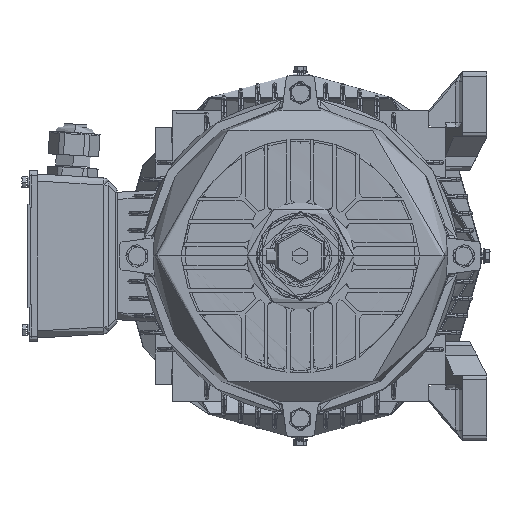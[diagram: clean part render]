
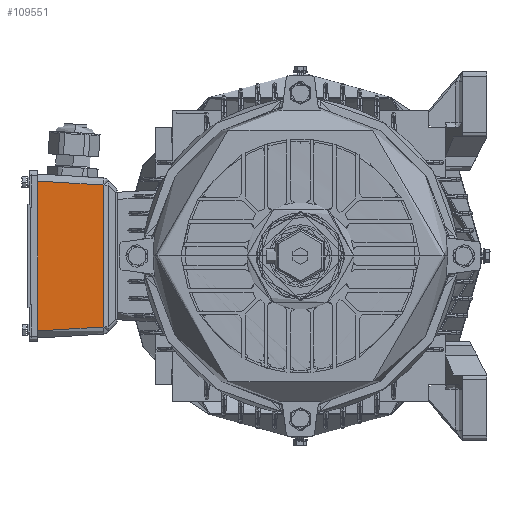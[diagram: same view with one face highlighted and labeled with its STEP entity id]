
A CAD part, left-side view. The second image highlights one B-rep face of the part: STEP entity #109551.
In plain terms, the highlighted planar face has unit normal (1, 0.02, 0).
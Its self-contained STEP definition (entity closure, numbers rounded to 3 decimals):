
#2082 = LINE ( 'NONE', #26346, #5372 ) ;
#5372 = VECTOR ( 'NONE', #100233, 1000. ) ;
#13002 = LINE ( 'NONE', #131734, #122018 ) ;
#21087 = CARTESIAN_POINT ( 'NONE',  ( -70.914, 164.139, 52.997 ) ) ;
#26346 = CARTESIAN_POINT ( 'NONE',  ( -70.914, 164.139, -60. ) ) ;
#31942 = VERTEX_POINT ( 'NONE', #61710 ) ;
#36626 = VERTEX_POINT ( 'NONE', #132763 ) ;
#39100 = ORIENTED_EDGE ( 'NONE', *, *, #79440, .T. ) ;
#39384 = EDGE_CURVE ( 'NONE', #31942, #86017, #70183, .T. ) ;
#50422 = EDGE_LOOP ( 'NONE', ( #39100, #70883, #97097, #59806 ) ) ;
#58425 = DIRECTION ( 'NONE',  ( 0.02, -0.998, -0.06 ) ) ;
#59806 = ORIENTED_EDGE ( 'NONE', *, *, #39384, .T. ) ;
#59958 = CARTESIAN_POINT ( 'NONE',  ( -70.914, 164.139, -60. ) ) ;
#61710 = CARTESIAN_POINT ( 'NONE',  ( -69.955, 116.192, 50.082 ) ) ;
#67714 = FACE_OUTER_BOUND ( 'NONE', #50422, .T. ) ;
#68134 = LINE ( 'NONE', #89933, #92888 ) ;
#68517 = DIRECTION ( 'NONE',  ( 0., 0., -1. ) ) ;
#70072 = PLANE ( 'NONE',  #99112 ) ;
#70183 = LINE ( 'NONE', #89727, #94999 ) ;
#70541 = DIRECTION ( 'NONE',  ( -0.02, 1., 0. ) ) ;
#70883 = ORIENTED_EDGE ( 'NONE', *, *, #78815, .T. ) ;
#72535 = VERTEX_POINT ( 'NONE', #21087 ) ;
#78815 = EDGE_CURVE ( 'NONE', #36626, #72535, #2082, .T. ) ;
#79440 = EDGE_CURVE ( 'NONE', #86017, #36626, #68134, .T. ) ;
#83170 = EDGE_CURVE ( 'NONE', #72535, #31942, #13002, .T. ) ;
#86017 = VERTEX_POINT ( 'NONE', #111784 ) ;
#89727 = CARTESIAN_POINT ( 'NONE',  ( -69.955, 116.151, -60. ) ) ;
#89933 = CARTESIAN_POINT ( 'NONE',  ( -69.956, 116.233, -50.123 ) ) ;
#92888 = VECTOR ( 'NONE', #100076, 1000. ) ;
#94999 = VECTOR ( 'NONE', #68517, 1000. ) ;
#97097 = ORIENTED_EDGE ( 'NONE', *, *, #83170, .T. ) ;
#99112 = AXIS2_PLACEMENT_3D ( 'NONE', #59958, #133683, #70541 ) ;
#100076 = DIRECTION ( 'NONE',  ( -0.02, 0.998, -0.06 ) ) ;
#100233 = DIRECTION ( 'NONE',  ( 0., 0., 1. ) ) ;
#109551 = ADVANCED_FACE ( 'NONE', ( #67714 ), #70072, .T. ) ;
#111784 = CARTESIAN_POINT ( 'NONE',  ( -69.955, 116.192, -50.082 ) ) ;
#122018 = VECTOR ( 'NONE', #58425, 1000. ) ;
#131734 = CARTESIAN_POINT ( 'NONE',  ( -70.914, 164.139, 52.997 ) ) ;
#132763 = CARTESIAN_POINT ( 'NONE',  ( -70.914, 164.139, -52.997 ) ) ;
#133683 = DIRECTION ( 'NONE',  ( 1., 0.02, 0. ) ) ;
